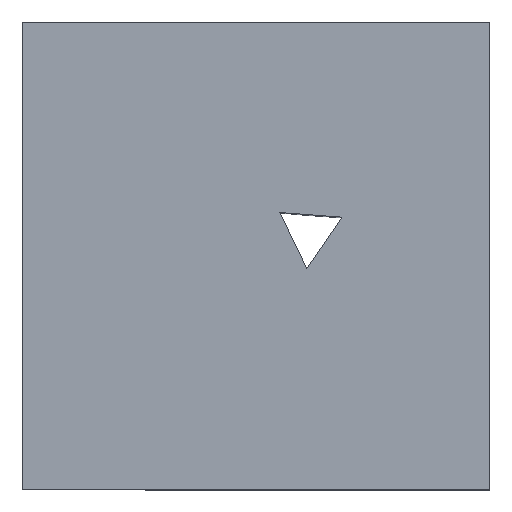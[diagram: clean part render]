
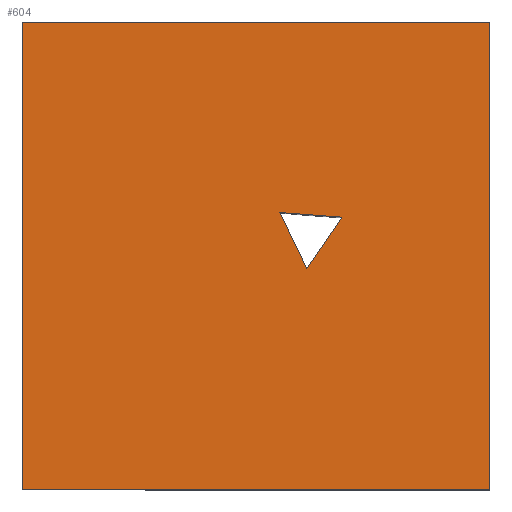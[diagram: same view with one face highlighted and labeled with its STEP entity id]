
A CAD part, top view. The second image highlights one B-rep face of the part: STEP entity #604.
In plain terms, the highlighted planar face has unit normal (0, 0, 1).
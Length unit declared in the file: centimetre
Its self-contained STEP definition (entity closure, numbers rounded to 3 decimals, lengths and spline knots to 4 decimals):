
#14 = DIRECTION ( 'NONE',  ( -0.563, -0.826, 0. ) ) ;
#46 = DIRECTION ( 'NONE',  ( 0., 1., 0. ) ) ;
#50 = AXIS2_PLACEMENT_3D ( 'NONE', #408, #528, #121 ) ;
#51 = EDGE_LOOP ( 'NONE', ( #174, #736, #386 ) ) ;
#60 = VECTOR ( 'NONE', #266, 100. ) ;
#69 = CARTESIAN_POINT ( 'NONE',  ( 1000., 1000., 1000. ) ) ;
#85 = DIRECTION ( 'NONE',  ( -1., 0., 0. ) ) ;
#94 = VECTOR ( 'NONE', #554, 100. ) ;
#105 = LINE ( 'NONE', #326, #158 ) ;
#108 = VERTEX_POINT ( 'NONE', #551 ) ;
#115 = EDGE_CURVE ( 'NONE', #202, #390, #369, .T. ) ;
#121 = DIRECTION ( 'NONE',  ( 1., 0., 0. ) ) ;
#126 = DIRECTION ( 'NONE',  ( 0., -1., 0. ) ) ;
#158 = VECTOR ( 'NONE', #46, 100. ) ;
#174 = ORIENTED_EDGE ( 'NONE', *, *, #705, .T. ) ;
#178 = EDGE_CURVE ( 'NONE', #657, #226, #482, .T. ) ;
#198 = VECTOR ( 'NONE', #85, 100. ) ;
#202 = VERTEX_POINT ( 'NONE', #353 ) ;
#226 = VERTEX_POINT ( 'NONE', #429 ) ;
#238 = FACE_OUTER_BOUND ( 'NONE', #552, .T. ) ;
#240 = CARTESIAN_POINT ( 'NONE',  ( 608.8329, 472.0312, 1000. ) ) ;
#264 = DIRECTION ( 'NONE',  ( 0.997, -0.075, 0. ) ) ;
#266 = DIRECTION ( 'NONE',  ( 1., 0., 0. ) ) ;
#326 = CARTESIAN_POINT ( 'NONE',  ( 1000., 1000., 1000. ) ) ;
#330 = CARTESIAN_POINT ( 'NONE',  ( 1000., 0., 1000. ) ) ;
#336 = LINE ( 'NONE', #505, #94 ) ;
#339 = ORIENTED_EDGE ( 'NONE', *, *, #178, .T. ) ;
#344 = LINE ( 'NONE', #240, #534 ) ;
#346 = EDGE_CURVE ( 'NONE', #108, #732, #614, .T. ) ;
#353 = CARTESIAN_POINT ( 'NONE',  ( 550.9501, 592.2883, 1000. ) ) ;
#369 = LINE ( 'NONE', #437, #730 ) ;
#386 = ORIENTED_EDGE ( 'NONE', *, *, #640, .T. ) ;
#390 = VERTEX_POINT ( 'NONE', #593 ) ;
#394 = ORIENTED_EDGE ( 'NONE', *, *, #577, .T. ) ;
#408 = CARTESIAN_POINT ( 'NONE',  ( 0., 0., 1000. ) ) ;
#411 = LINE ( 'NONE', #467, #636 ) ;
#429 = CARTESIAN_POINT ( 'NONE',  ( 0., 1000., 1000. ) ) ;
#434 = CARTESIAN_POINT ( 'NONE',  ( 0., 0., 1000. ) ) ;
#437 = CARTESIAN_POINT ( 'NONE',  ( 684.0373, 582.2877, 1000. ) ) ;
#467 = CARTESIAN_POINT ( 'NONE',  ( 0., 1000., 1000. ) ) ;
#482 = LINE ( 'NONE', #595, #198 ) ;
#489 = ORIENTED_EDGE ( 'NONE', *, *, #346, .T. ) ;
#494 = VERTEX_POINT ( 'NONE', #533 ) ;
#505 = CARTESIAN_POINT ( 'NONE',  ( 550.9501, 592.2883, 1000. ) ) ;
#528 = DIRECTION ( 'NONE',  ( 0., 0., 1. ) ) ;
#533 = CARTESIAN_POINT ( 'NONE',  ( 608.8329, 472.0312, 1000. ) ) ;
#534 = VECTOR ( 'NONE', #14, 100. ) ;
#551 = CARTESIAN_POINT ( 'NONE',  ( 0., 0., 1000. ) ) ;
#552 = EDGE_LOOP ( 'NONE', ( #394, #489, #684, #339 ) ) ;
#554 = DIRECTION ( 'NONE',  ( -0.434, 0.901, 0. ) ) ;
#577 = EDGE_CURVE ( 'NONE', #226, #108, #411, .T. ) ;
#593 = CARTESIAN_POINT ( 'NONE',  ( 684.0373, 582.2877, 1000. ) ) ;
#595 = CARTESIAN_POINT ( 'NONE',  ( 0., 1000., 1000. ) ) ;
#604 = ADVANCED_FACE ( 'NONE', ( #633, #238 ), #696, .T. ) ;
#614 = LINE ( 'NONE', #434, #60 ) ;
#633 = FACE_BOUND ( 'NONE', #51, .T. ) ;
#636 = VECTOR ( 'NONE', #126, 100. ) ;
#640 = EDGE_CURVE ( 'NONE', #390, #494, #344, .T. ) ;
#657 = VERTEX_POINT ( 'NONE', #69 ) ;
#684 = ORIENTED_EDGE ( 'NONE', *, *, #692, .T. ) ;
#692 = EDGE_CURVE ( 'NONE', #732, #657, #105, .T. ) ;
#696 = PLANE ( 'NONE',  #50 ) ;
#705 = EDGE_CURVE ( 'NONE', #494, #202, #336, .T. ) ;
#730 = VECTOR ( 'NONE', #264, 100. ) ;
#732 = VERTEX_POINT ( 'NONE', #330 ) ;
#736 = ORIENTED_EDGE ( 'NONE', *, *, #115, .T. ) ;
